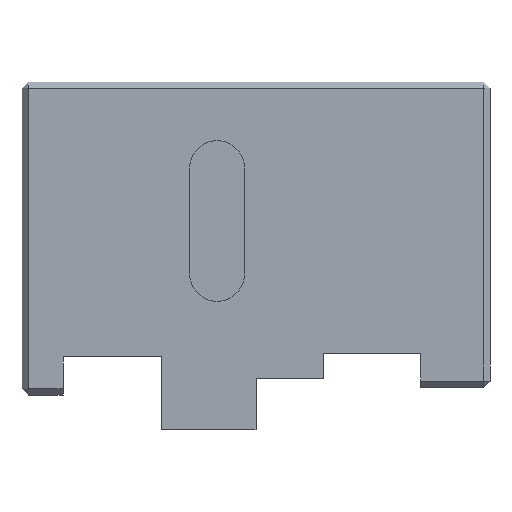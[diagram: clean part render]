
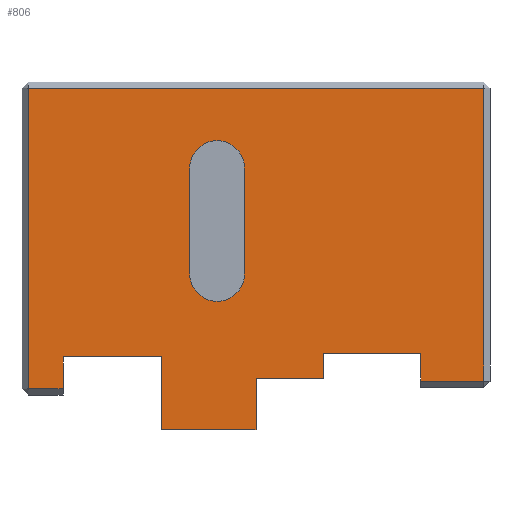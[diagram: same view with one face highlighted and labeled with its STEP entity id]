
A CAD part, left-side view. The second image highlights one B-rep face of the part: STEP entity #806.
In plain terms, the highlighted planar face has unit normal (-1, 0, 0).
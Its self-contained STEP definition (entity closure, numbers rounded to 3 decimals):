
#20=FACE_BOUND('',#126,.T.);
#23=CIRCLE('',#839,4.335);
#25=CIRCLE('',#843,4.335);
#76=FACE_OUTER_BOUND('',#125,.T.);
#125=EDGE_LOOP('',(#697,#698,#699,#700,#701,#702,#703,#704,#705,#706,#707,
#708,#709,#710));
#126=EDGE_LOOP('',(#711,#712,#713,#714));
#143=LINE('',#1117,#243);
#156=LINE('',#1146,#256);
#159=LINE('',#1150,#259);
#163=LINE('',#1156,#263);
#175=LINE('',#1177,#275);
#197=LINE('',#1232,#297);
#201=LINE('',#1243,#301);
#210=LINE('',#1266,#310);
#211=LINE('',#1269,#311);
#213=LINE('',#1273,#313);
#215=LINE('',#1277,#315);
#217=LINE('',#1281,#317);
#219=LINE('',#1285,#319);
#221=LINE('',#1289,#321);
#223=LINE('',#1293,#323);
#225=LINE('',#1296,#325);
#243=VECTOR('',#895,10.);
#256=VECTOR('',#918,10.);
#259=VECTOR('',#923,10.);
#263=VECTOR('',#931,10.);
#275=VECTOR('',#953,10.);
#297=VECTOR('',#1003,10.);
#301=VECTOR('',#1015,10.);
#310=VECTOR('',#1042,10.);
#311=VECTOR('',#1045,10.);
#313=VECTOR('',#1049,10.);
#315=VECTOR('',#1053,10.);
#317=VECTOR('',#1057,10.);
#319=VECTOR('',#1061,10.);
#321=VECTOR('',#1065,10.);
#323=VECTOR('',#1069,10.);
#325=VECTOR('',#1073,10.);
#335=VERTEX_POINT('',#1098);
#339=VERTEX_POINT('',#1109);
#347=VERTEX_POINT('',#1132);
#350=VERTEX_POINT('',#1139);
#352=VERTEX_POINT('',#1144);
#355=VERTEX_POINT('',#1173);
#371=VERTEX_POINT('',#1222);
#372=VERTEX_POINT('',#1223);
#375=VERTEX_POINT('',#1231);
#377=VERTEX_POINT('',#1237);
#383=VERTEX_POINT('',#1264);
#384=VERTEX_POINT('',#1268);
#385=VERTEX_POINT('',#1272);
#386=VERTEX_POINT('',#1276);
#387=VERTEX_POINT('',#1280);
#388=VERTEX_POINT('',#1284);
#389=VERTEX_POINT('',#1288);
#390=VERTEX_POINT('',#1292);
#407=EDGE_CURVE('',#339,#335,#143,.T.);
#420=EDGE_CURVE('',#352,#350,#156,.T.);
#423=EDGE_CURVE('',#350,#347,#159,.T.);
#427=EDGE_CURVE('',#347,#339,#163,.T.);
#439=EDGE_CURVE('',#335,#355,#175,.T.);
#461=EDGE_CURVE('',#371,#372,#23,.T.);
#465=EDGE_CURVE('',#372,#375,#197,.T.);
#468=EDGE_CURVE('',#375,#377,#25,.T.);
#471=EDGE_CURVE('',#377,#371,#201,.T.);
#482=EDGE_CURVE('',#383,#352,#210,.T.);
#483=EDGE_CURVE('',#384,#383,#211,.T.);
#485=EDGE_CURVE('',#385,#384,#213,.T.);
#487=EDGE_CURVE('',#386,#385,#215,.T.);
#489=EDGE_CURVE('',#387,#386,#217,.T.);
#491=EDGE_CURVE('',#388,#387,#219,.T.);
#493=EDGE_CURVE('',#389,#388,#221,.T.);
#495=EDGE_CURVE('',#390,#389,#223,.T.);
#497=EDGE_CURVE('',#355,#390,#225,.T.);
#697=ORIENTED_EDGE('',*,*,#420,.F.);
#698=ORIENTED_EDGE('',*,*,#482,.F.);
#699=ORIENTED_EDGE('',*,*,#483,.F.);
#700=ORIENTED_EDGE('',*,*,#485,.F.);
#701=ORIENTED_EDGE('',*,*,#487,.F.);
#702=ORIENTED_EDGE('',*,*,#489,.F.);
#703=ORIENTED_EDGE('',*,*,#491,.F.);
#704=ORIENTED_EDGE('',*,*,#493,.F.);
#705=ORIENTED_EDGE('',*,*,#495,.F.);
#706=ORIENTED_EDGE('',*,*,#497,.F.);
#707=ORIENTED_EDGE('',*,*,#439,.F.);
#708=ORIENTED_EDGE('',*,*,#407,.F.);
#709=ORIENTED_EDGE('',*,*,#427,.F.);
#710=ORIENTED_EDGE('',*,*,#423,.F.);
#711=ORIENTED_EDGE('',*,*,#461,.T.);
#712=ORIENTED_EDGE('',*,*,#465,.T.);
#713=ORIENTED_EDGE('',*,*,#468,.T.);
#714=ORIENTED_EDGE('',*,*,#471,.T.);
#758=PLANE('',#864);
#806=ADVANCED_FACE('',(#76,#20),#758,.F.);
#839=AXIS2_PLACEMENT_3D('',#1224,#995,#996);
#843=AXIS2_PLACEMENT_3D('',#1238,#1008,#1009);
#864=AXIS2_PLACEMENT_3D('',#1299,#1077,#1078);
#895=DIRECTION('',(0.,0.,-1.));
#918=DIRECTION('',(0.,1.,0.));
#923=DIRECTION('',(0.,0.,1.));
#931=DIRECTION('',(0.,-1.,0.));
#953=DIRECTION('',(0.,1.,0.));
#995=DIRECTION('center_axis',(1.,0.,0.));
#996=DIRECTION('ref_axis',(0.,-1.,0.));
#1003=DIRECTION('',(0.,0.,-1.));
#1008=DIRECTION('center_axis',(1.,0.,0.));
#1009=DIRECTION('ref_axis',(0.,1.,0.));
#1015=DIRECTION('',(0.,0.,1.));
#1042=DIRECTION('',(0.,0.,-1.));
#1045=DIRECTION('',(0.,1.,0.));
#1049=DIRECTION('',(0.,0.,1.));
#1053=DIRECTION('',(0.,1.,0.));
#1057=DIRECTION('',(0.,0.,-1.));
#1061=DIRECTION('',(0.,1.,0.));
#1065=DIRECTION('',(0.,0.,-1.));
#1069=DIRECTION('',(0.,1.,0.));
#1073=DIRECTION('',(0.,0.,1.));
#1077=DIRECTION('center_axis',(1.,0.,0.));
#1078=DIRECTION('ref_axis',(0.,0.,-1.));
#1098=CARTESIAN_POINT('',(0.,1.,-47.27));
#1109=CARTESIAN_POINT('',(0.,1.,-1.));
#1117=CARTESIAN_POINT('',(0.,1.,-13.502));
#1132=CARTESIAN_POINT('',(0.,73.,-1.));
#1139=CARTESIAN_POINT('',(0.,73.,-48.486));
#1144=CARTESIAN_POINT('',(0.,67.501,-48.486));
#1146=CARTESIAN_POINT('',(0.,52.643,-48.486));
#1150=CARTESIAN_POINT('',(0.,73.,-38.245));
#1156=CARTESIAN_POINT('',(0.,55.893,-1.));
#1173=CARTESIAN_POINT('',(0.,10.98,-47.27));
#1177=CARTESIAN_POINT('',(0.,18.893,-47.27));
#1222=CARTESIAN_POINT('',(0.,47.487,-13.596));
#1223=CARTESIAN_POINT('',(0.,38.817,-13.596));
#1224=CARTESIAN_POINT('Origin',(0.,43.152,-13.596));
#1231=CARTESIAN_POINT('',(0.,38.817,-30.344));
#1232=CARTESIAN_POINT('',(0.,38.817,-28.674));
#1237=CARTESIAN_POINT('',(0.,47.487,-30.344));
#1238=CARTESIAN_POINT('Origin',(0.,43.152,-30.344));
#1243=CARTESIAN_POINT('',(0.,47.487,-20.3));
#1264=CARTESIAN_POINT('',(0.,67.501,-43.444));
#1266=CARTESIAN_POINT('',(0.,67.501,-43.444));
#1268=CARTESIAN_POINT('',(0.,51.893,-43.444));
#1269=CARTESIAN_POINT('',(0.,51.893,-43.444));
#1272=CARTESIAN_POINT('',(0.,51.893,-55.));
#1273=CARTESIAN_POINT('',(0.,51.893,-55.));
#1276=CARTESIAN_POINT('',(0.,37.,-55.));
#1277=CARTESIAN_POINT('',(0.,37.,-55.));
#1280=CARTESIAN_POINT('',(0.,37.,-46.927));
#1281=CARTESIAN_POINT('',(0.,37.,-46.927));
#1284=CARTESIAN_POINT('',(0.,26.357,-46.927));
#1285=CARTESIAN_POINT('',(0.,26.357,-46.927));
#1288=CARTESIAN_POINT('',(0.,26.357,-42.947));
#1289=CARTESIAN_POINT('',(0.,26.357,-42.947));
#1292=CARTESIAN_POINT('',(0.,10.98,-42.947));
#1293=CARTESIAN_POINT('',(0.,10.98,-42.947));
#1296=CARTESIAN_POINT('',(0.,10.98,-48.27));
#1299=CARTESIAN_POINT('Origin',(0.,37.785,-27.004));
